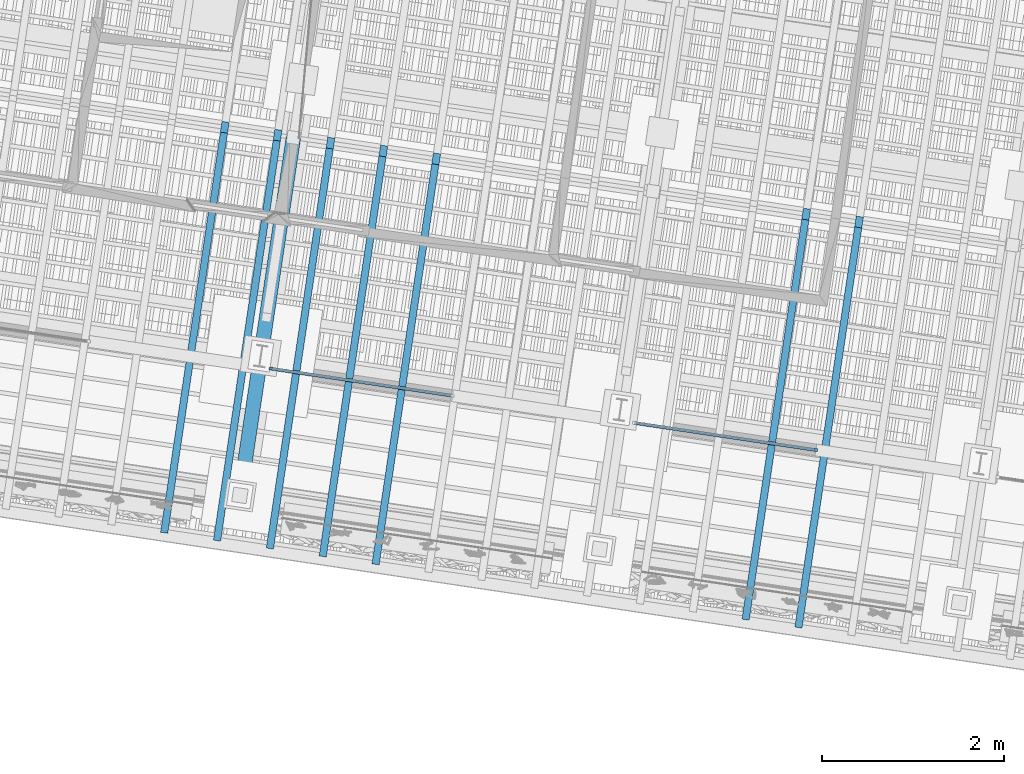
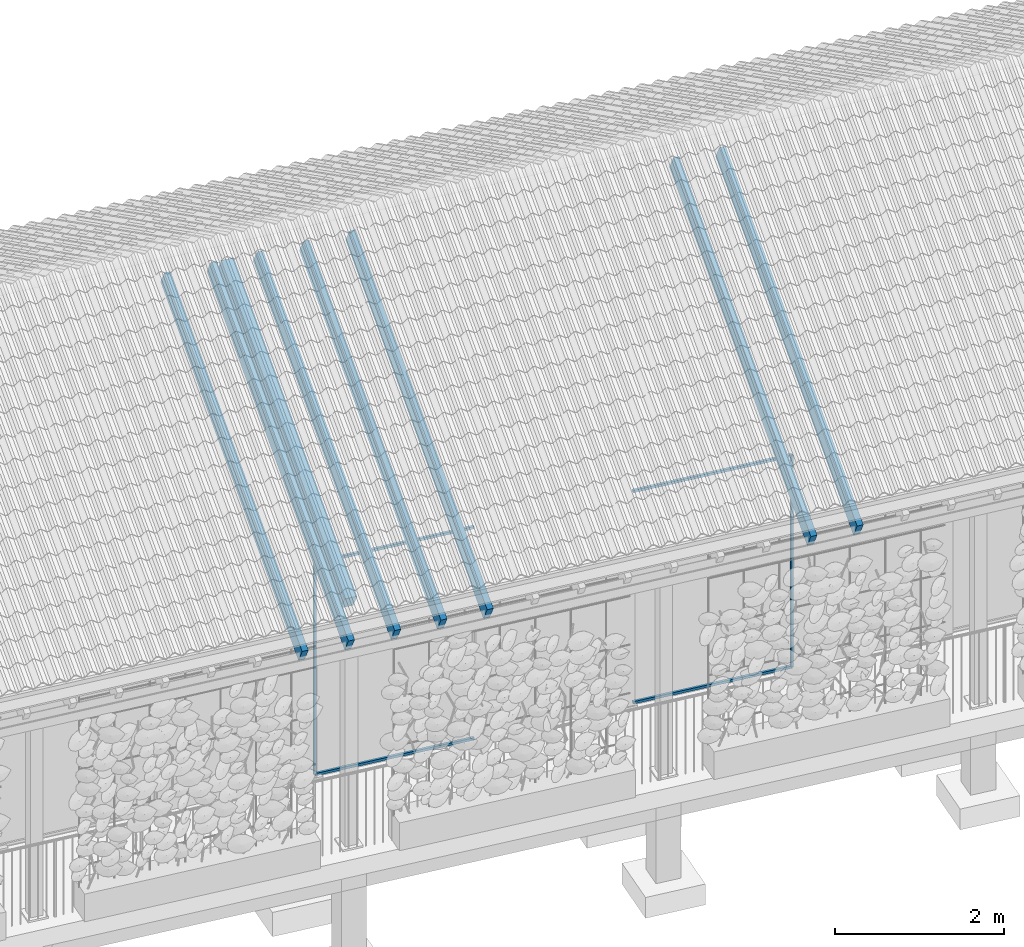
# One storey, part 77 of 131: 14 members, 1 element without a shape of its own.
"""IFC4 building model written with IfcOpenShell, lengths in metres."""

from ifc_helpers import new_model, si_unit, direction, frame, origin_with_axes, place, context, subcontext, project, spatial, rectangle, extrude, material, material_profile, profile_set, profile_usage, type_object, element, aggregate, save


model = new_model("IFC4")

# Units and contexts
model_context = context("Model", 3, precision=1e-05, world=origin_with_axes(), true_north=direction((0.0, 1.0)))
body_context = subcontext(model_context, "Body", "Model", "MODEL_VIEW")
ifc_project = project(units=[si_unit("AREAUNIT", "SQUARE_METRE"), si_unit("VOLUMEUNIT", "CUBIC_METRE"), si_unit("LENGTHUNIT", "METRE")], contexts=[model_context])

# Site, building, storey
site_placement = place(None, origin_with_axes())
site = spatial("IfcSite", under=ifc_project, at=site_placement, Name="Lares · Rua das Mercês · artigo 4771")
building_placement = place(site_placement, frame((15.0, 9.7, 14.65), z_axis=(0.0, 0.0, 1.0), x_axis=(0.989015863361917, -0.147809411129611, 0.0)))
building = spatial("IfcBuilding", under=site, at=building_placement, Name="Casa Sobreposta")
storey_placement = place(building_placement, origin_with_axes())
storey = spatial("IfcBuildingStorey", under=building, at=storey_placement, Name="00 · Habitação e estacionamento", Elevation=14.65)

# Members
ifc_material_1 = material(Name="Aço pintado / Stahl lackiert", Category="steel")
ifc_material_profile_1 = material_profile(ifc_material_1, rectangle(XDim=0.035, YDim=0.035))
ifc_profile_set_1 = profile_set([ifc_material_profile_1], Name="R0.035")
ifc_profile_usage_1 = profile_usage(ifc_profile_set_1)
member_type_1 = type_object("IfcMemberType", Name="R0.035 / steel", PredefinedType="NOTDEFINED", material=ifc_profile_set_1)
member_1_placement = place(storey_placement, frame((12.128, 0.0, 0.0), z_axis=(0.0, 0.0, 1.0), x_axis=(1.0, 0.0, 0.0)))
element("IfcMember", 1, at=member_1_placement, inside=storey, type_object=member_type_1, material=ifc_profile_usage_1, Name="Folha de correr sul 6 · montante", context=body_context, shape_type="SweptSolid", body=[
    extrude(rectangle(XDim=0.035, YDim=0.035), origin_with_axes(), (0.0, 0.0, 1.0), 3.05),
])
ifc_profile_usage_2 = profile_usage(ifc_profile_set_1)
member_2_placement = place(storey_placement, frame((12.128, 0.0, 0.0), z_axis=(1.0, 0.0, 0.0), x_axis=(0.0, -1.0, 0.0)))
element("IfcMember", 2, at=member_2_placement, inside=storey, type_object=member_type_1, material=ifc_profile_usage_2, Name="Folha de correr sul 6 · travessa", context=body_context, shape_type="SweptSolid", body=[
    extrude(rectangle(XDim=0.035, YDim=0.035), origin_with_axes(), (0.0, 0.0, 1.0), 2.02133333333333),
])
ifc_profile_usage_3 = profile_usage(ifc_profile_set_1)
member_3_placement = place(storey_placement, frame((12.128, 0.0, 3.05), z_axis=(1.0, 0.0, 0.0), x_axis=(0.0, -1.0, 0.0)))
element("IfcMember", 3, at=member_3_placement, inside=storey, type_object=member_type_1, material=ifc_profile_usage_3, Name="Folha de correr sul 6 · travessa", context=body_context, shape_type="SweptSolid", body=[
    extrude(rectangle(XDim=0.035, YDim=0.035), origin_with_axes(), (0.0, 0.0, 1.0), 2.02133333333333),
])
ifc_profile_usage_4 = profile_usage(ifc_profile_set_1)
member_4_placement = place(storey_placement, frame((18.192, 0.0, 0.0), z_axis=(0.0, 0.0, 1.0), x_axis=(1.0, 0.0, 0.0)))
element("IfcMember", 4, at=member_4_placement, inside=storey, type_object=member_type_1, material=ifc_profile_usage_4, Name="Folha de correr sul 8 · montante", context=body_context, shape_type="SweptSolid", body=[
    extrude(rectangle(XDim=0.035, YDim=0.035), origin_with_axes(), (0.0, 0.0, 1.0), 3.05),
])
ifc_profile_usage_5 = profile_usage(ifc_profile_set_1)
member_5_placement = place(storey_placement, frame((16.1706666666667, 0.0, 0.0), z_axis=(1.0, 0.0, 0.0), x_axis=(0.0, -1.0, 0.0)))
element("IfcMember", 5, at=member_5_placement, inside=storey, type_object=member_type_1, material=ifc_profile_usage_5, Name="Folha de correr sul 8 · travessa", context=body_context, shape_type="SweptSolid", body=[
    extrude(rectangle(XDim=0.035, YDim=0.035), origin_with_axes(), (0.0, 0.0, 1.0), 2.02133333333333),
])
ifc_profile_usage_6 = profile_usage(ifc_profile_set_1)
member_6_placement = place(storey_placement, frame((16.1706666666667, 0.0, 3.05), z_axis=(1.0, 0.0, 0.0), x_axis=(0.0, -1.0, 0.0)))
element("IfcMember", 6, at=member_6_placement, inside=storey, type_object=member_type_1, material=ifc_profile_usage_6, Name="Folha de correr sul 8 · travessa", context=body_context, shape_type="SweptSolid", body=[
    extrude(rectangle(XDim=0.035, YDim=0.035), origin_with_axes(), (0.0, 0.0, 1.0), 2.02133333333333),
])

# Roof, members
ifc_material_2 = material(Name="Madeira / Bauholz", Category="wood")
roof_placement = place(storey_placement, origin_with_axes())
roof = element("IfcRoof", 7, at=roof_placement, inside=storey, material=ifc_material_2, Name="Cobertura de telha · duas águas 30 graus", PredefinedType="GABLE_ROOF")
ifc_material_profile_2 = material_profile(ifc_material_2, rectangle(XDim=0.16, YDim=0.24))
ifc_profile_set_2 = profile_set([ifc_material_profile_2], Name="TIMBER0.160x0.240")
ifc_profile_usage_7 = profile_usage(ifc_profile_set_2)
member_type_2 = type_object("IfcMemberType", Name="TIMBER0.160x0.240 / timber", PredefinedType="NOTDEFINED", material=ifc_profile_set_2)
member_7_placement = place(roof_placement, frame((12.0, -1.43, 3.44635462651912), z_axis=(0.0, 0.866025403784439, 0.5), x_axis=(1.0, 0.0, 0.0)))
member_7 = element("IfcMember", 8, at=member_7_placement, type_object=member_type_2, material=ifc_profile_usage_7, Name="Tesoura · perna", context=body_context, shape_type="SweptSolid", body=[
    extrude(rectangle(XDim=0.16, YDim=0.24), origin_with_axes(), (0.0, 0.0, 1.0), 4.59570814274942),
])
ifc_material_profile_3 = material_profile(ifc_material_2, rectangle(XDim=0.08, YDim=0.24))
ifc_profile_set_3 = profile_set([ifc_material_profile_3], Name="TIMBER0.080x0.240")
ifc_profile_usage_8 = profile_usage(ifc_profile_set_3)
member_type_3 = type_object("IfcMemberType", Name="TIMBER0.080x0.240 / timber", PredefinedType="NOTDEFINED", material=ifc_profile_set_3)
member_8_placement = place(roof_placement, frame((11.2363636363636, -1.9, 3.181), z_axis=(0.0, 0.866025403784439, 0.5), x_axis=(1.0, 0.0, 0.0)))
member_8 = element("IfcMember", 9, at=member_8_placement, type_object=member_type_3, material=ifc_profile_usage_8, Name="Cobertura · caibro", context=body_context, shape_type="SweptSolid", body=[
    extrude(rectangle(XDim=0.08, YDim=0.24), origin_with_axes(), (0.0, 0.0, 1.0), 5.13841739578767),
])
ifc_profile_usage_9 = profile_usage(ifc_profile_set_3)
member_9_placement = place(roof_placement, frame((11.8242424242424, -1.9, 3.181), z_axis=(0.0, 0.866025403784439, 0.5), x_axis=(1.0, 0.0, 0.0)))
member_9 = element("IfcMember", 10, at=member_9_placement, type_object=member_type_3, material=ifc_profile_usage_9, Name="Cobertura · caibro", context=body_context, shape_type="SweptSolid", body=[
    extrude(rectangle(XDim=0.08, YDim=0.24), origin_with_axes(), (0.0, 0.0, 1.0), 5.13841739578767),
])
ifc_profile_usage_10 = profile_usage(ifc_profile_set_3)
member_10_placement = place(roof_placement, frame((12.4121212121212, -1.9, 3.181), z_axis=(0.0, 0.866025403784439, 0.5), x_axis=(1.0, 0.0, 0.0)))
member_10 = element("IfcMember", 11, at=member_10_placement, type_object=member_type_3, material=ifc_profile_usage_10, Name="Cobertura · caibro", context=body_context, shape_type="SweptSolid", body=[
    extrude(rectangle(XDim=0.08, YDim=0.24), origin_with_axes(), (0.0, 0.0, 1.0), 5.13841739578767),
])
ifc_profile_usage_11 = profile_usage(ifc_profile_set_3)
member_11_placement = place(roof_placement, frame((13.0, -1.9, 3.181), z_axis=(0.0, 0.866025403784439, 0.5), x_axis=(1.0, 0.0, 0.0)))
member_11 = element("IfcMember", 12, at=member_11_placement, type_object=member_type_3, material=ifc_profile_usage_11, Name="Cobertura · caibro", context=body_context, shape_type="SweptSolid", body=[
    extrude(rectangle(XDim=0.08, YDim=0.24), origin_with_axes(), (0.0, 0.0, 1.0), 5.13841739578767),
])
ifc_profile_usage_12 = profile_usage(ifc_profile_set_3)
member_12_placement = place(roof_placement, frame((13.5878787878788, -1.9, 3.181), z_axis=(0.0, 0.866025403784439, 0.5), x_axis=(1.0, 0.0, 0.0)))
member_12 = element("IfcMember", 13, at=member_12_placement, type_object=member_type_3, material=ifc_profile_usage_12, Name="Cobertura · caibro", context=body_context, shape_type="SweptSolid", body=[
    extrude(rectangle(XDim=0.08, YDim=0.24), origin_with_axes(), (0.0, 0.0, 1.0), 5.13841739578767),
])
ifc_profile_usage_13 = profile_usage(ifc_profile_set_3)
member_13_placement = place(roof_placement, frame((17.7030303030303, -1.9, 3.181), z_axis=(0.0, 0.866025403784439, 0.5), x_axis=(1.0, 0.0, 0.0)))
member_13 = element("IfcMember", 14, at=member_13_placement, type_object=member_type_3, material=ifc_profile_usage_13, Name="Cobertura · caibro", context=body_context, shape_type="SweptSolid", body=[
    extrude(rectangle(XDim=0.08, YDim=0.24), origin_with_axes(), (0.0, 0.0, 1.0), 5.13841739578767),
])
ifc_profile_usage_14 = profile_usage(ifc_profile_set_3)
member_14_placement = place(roof_placement, frame((18.2909090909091, -1.9, 3.181), z_axis=(0.0, 0.866025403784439, 0.5), x_axis=(1.0, 0.0, 0.0)))
member_14 = element("IfcMember", 15, at=member_14_placement, type_object=member_type_3, material=ifc_profile_usage_14, Name="Cobertura · caibro", context=body_context, shape_type="SweptSolid", body=[
    extrude(rectangle(XDim=0.08, YDim=0.24), origin_with_axes(), (0.0, 0.0, 1.0), 5.13841739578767),
])
aggregate(roof, [member_7, member_8, member_9, member_10, member_11, member_12, member_13, member_14])

save(model, "model.ifc")
